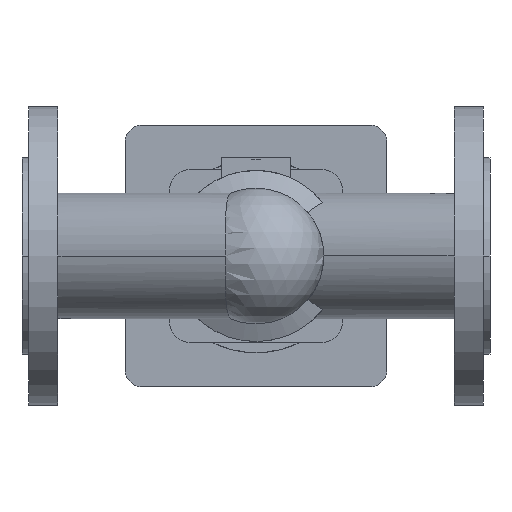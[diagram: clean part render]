
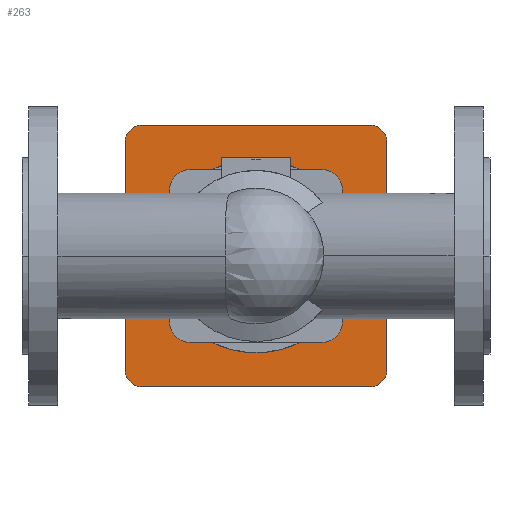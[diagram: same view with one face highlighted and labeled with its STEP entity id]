
A CAD part, front view. The second image highlights one B-rep face of the part: STEP entity #263.
In plain terms, the highlighted planar face has unit normal (0, -1, 0).
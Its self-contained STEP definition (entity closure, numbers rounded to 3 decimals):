
#263 = ADVANCED_FACE( '', ( #603, #604 ), #605, .F. );
#603 = FACE_OUTER_BOUND( '', #969, .T. );
#604 = FACE_BOUND( '', #970, .T. );
#605 = PLANE( '', #971 );
#969 = EDGE_LOOP( '', ( #2116, #2117, #2118, #2119, #2120, #2121, #2122, #2123 ) );
#970 = EDGE_LOOP( '', ( #2124, #2125 ) );
#971 = AXIS2_PLACEMENT_3D( '', #2126, #2127, #2128 );
#2116 = ORIENTED_EDGE( '', *, *, #2645, .F. );
#2117 = ORIENTED_EDGE( '', *, *, #2646, .F. );
#2118 = ORIENTED_EDGE( '', *, *, #2647, .F. );
#2119 = ORIENTED_EDGE( '', *, *, #2648, .F. );
#2120 = ORIENTED_EDGE( '', *, *, #2649, .F. );
#2121 = ORIENTED_EDGE( '', *, *, #2650, .F. );
#2122 = ORIENTED_EDGE( '', *, *, #2651, .F. );
#2123 = ORIENTED_EDGE( '', *, *, #2652, .F. );
#2124 = ORIENTED_EDGE( '', *, *, #2560, .F. );
#2125 = ORIENTED_EDGE( '', *, *, #2653, .F. );
#2126 = CARTESIAN_POINT( '', ( 145., 432., 0. ) );
#2127 = DIRECTION( '', ( 0., 1., 0. ) );
#2128 = DIRECTION( '', ( 0., 0., 1. ) );
#2560 = EDGE_CURVE( '', #3135, #3138, #3139, .T. );
#2645 = EDGE_CURVE( '', #3282, #3283, #3284, .T. );
#2646 = EDGE_CURVE( '', #3285, #3282, #3286, .T. );
#2647 = EDGE_CURVE( '', #3287, #3285, #3288, .T. );
#2648 = EDGE_CURVE( '', #3289, #3287, #3290, .T. );
#2649 = EDGE_CURVE( '', #3291, #3289, #3292, .T. );
#2650 = EDGE_CURVE( '', #3293, #3291, #3294, .T. );
#2651 = EDGE_CURVE( '', #3295, #3293, #3296, .T. );
#2652 = EDGE_CURVE( '', #3283, #3295, #3297, .T. );
#2653 = EDGE_CURVE( '', #3138, #3135, #3298, .T. );
#3135 = VERTEX_POINT( '', #4452 );
#3138 = VERTEX_POINT( '', #4456 );
#3139 = CIRCLE( '', #4457, 40. );
#3282 = VERTEX_POINT( '', #4655 );
#3283 = VERTEX_POINT( '', #4656 );
#3284 = CIRCLE( '', #4657, 10. );
#3285 = VERTEX_POINT( '', #4658 );
#3286 = LINE( '', #4659, #4660 );
#3287 = VERTEX_POINT( '', #4661 );
#3288 = CIRCLE( '', #4662, 10. );
#3289 = VERTEX_POINT( '', #4663 );
#3290 = LINE( '', #4664, #4665 );
#3291 = VERTEX_POINT( '', #4666 );
#3292 = CIRCLE( '', #4667, 10. );
#3293 = VERTEX_POINT( '', #4668 );
#3294 = LINE( '', #4669, #4670 );
#3295 = VERTEX_POINT( '', #4671 );
#3296 = CIRCLE( '', #4672, 10. );
#3297 = LINE( '', #4673, #4674 );
#3298 = CIRCLE( '', #4675, 40. );
#4452 = CARTESIAN_POINT( '', ( 105., 432., 0. ) );
#4456 = CARTESIAN_POINT( '', ( 185., 432., 0. ) );
#4457 = AXIS2_PLACEMENT_3D( '', #5230, #5231, #5232 );
#4655 = CARTESIAN_POINT( '', ( 64., 432., 71. ) );
#4656 = CARTESIAN_POINT( '', ( 74., 432., 81. ) );
#4657 = AXIS2_PLACEMENT_3D( '', #5375, #5376, #5377 );
#4658 = CARTESIAN_POINT( '', ( 64., 432., -71. ) );
#4659 = CARTESIAN_POINT( '', ( 64., 432., -71. ) );
#4660 = VECTOR( '', #5378, 1. );
#4661 = CARTESIAN_POINT( '', ( 74., 432., -81. ) );
#4662 = AXIS2_PLACEMENT_3D( '', #5379, #5380, #5381 );
#4663 = CARTESIAN_POINT( '', ( 216., 432., -81. ) );
#4664 = CARTESIAN_POINT( '', ( 216., 432., -81. ) );
#4665 = VECTOR( '', #5382, 1. );
#4666 = CARTESIAN_POINT( '', ( 226., 432., -71. ) );
#4667 = AXIS2_PLACEMENT_3D( '', #5383, #5384, #5385 );
#4668 = CARTESIAN_POINT( '', ( 226., 432., 71. ) );
#4669 = CARTESIAN_POINT( '', ( 226., 432., 71. ) );
#4670 = VECTOR( '', #5386, 1. );
#4671 = CARTESIAN_POINT( '', ( 216., 432., 81. ) );
#4672 = AXIS2_PLACEMENT_3D( '', #5387, #5388, #5389 );
#4673 = CARTESIAN_POINT( '', ( 74., 432., 81. ) );
#4674 = VECTOR( '', #5390, 1. );
#4675 = AXIS2_PLACEMENT_3D( '', #5391, #5392, #5393 );
#5230 = CARTESIAN_POINT( '', ( 145., 432., 0. ) );
#5231 = DIRECTION( '', ( 0., -1., 0. ) );
#5232 = DIRECTION( '', ( -1., 0., 0. ) );
#5375 = CARTESIAN_POINT( '', ( 74., 432., 71. ) );
#5376 = DIRECTION( '', ( 0., 1., 0. ) );
#5377 = DIRECTION( '', ( -1., 0., 0. ) );
#5378 = DIRECTION( '', ( 0., 0., 1. ) );
#5379 = CARTESIAN_POINT( '', ( 74., 432., -71. ) );
#5380 = DIRECTION( '', ( 0., 1., 0. ) );
#5381 = DIRECTION( '', ( 0., 0., -1. ) );
#5382 = DIRECTION( '', ( -1., 0., 0. ) );
#5383 = CARTESIAN_POINT( '', ( 216., 432., -71. ) );
#5384 = DIRECTION( '', ( 0., 1., 0. ) );
#5385 = DIRECTION( '', ( 1., 0., 0. ) );
#5386 = DIRECTION( '', ( 0., 0., -1. ) );
#5387 = CARTESIAN_POINT( '', ( 216., 432., 71. ) );
#5388 = DIRECTION( '', ( 0., 1., 0. ) );
#5389 = DIRECTION( '', ( 0., 0., 1. ) );
#5390 = DIRECTION( '', ( 1., 0., 0. ) );
#5391 = CARTESIAN_POINT( '', ( 145., 432., 0. ) );
#5392 = DIRECTION( '', ( 0., -1., 0. ) );
#5393 = DIRECTION( '', ( -1., 0., 0. ) );
